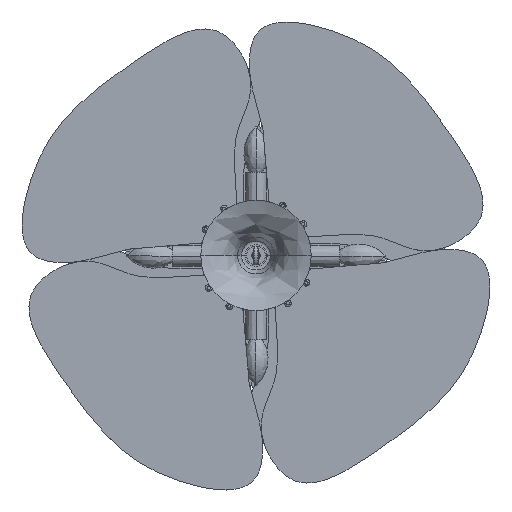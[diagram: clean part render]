
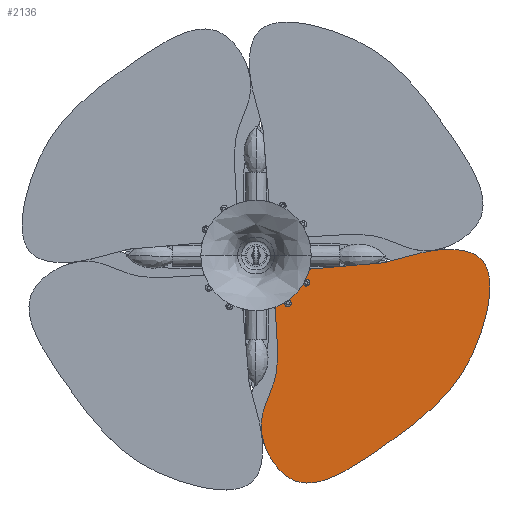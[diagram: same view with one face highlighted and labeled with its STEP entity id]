
A CAD part, top view. The second image highlights one B-rep face of the part: STEP entity #2136.
In plain terms, the highlighted planar face has unit normal (0, 0, 1).
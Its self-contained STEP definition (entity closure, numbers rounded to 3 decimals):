
#109=FACE_BOUND('',#5097,.T.);
#110=FACE_BOUND('',#5098,.T.);
#516=PLANE('',#24002);
#2136=ADVANCED_FACE('',(#3569,#109,#110),#516,.T.);
#3569=FACE_OUTER_BOUND('',#5096,.T.);
#5096=EDGE_LOOP('',(#10852,#10853,#10854));
#5097=EDGE_LOOP('',(#10855,#10856));
#5098=EDGE_LOOP('',(#10857,#10858));
#10852=ORIENTED_EDGE('',*,*,#13901,.F.);
#10853=ORIENTED_EDGE('',*,*,#13898,.F.);
#10854=ORIENTED_EDGE('',*,*,#13894,.F.);
#10855=ORIENTED_EDGE('',*,*,#13910,.F.);
#10856=ORIENTED_EDGE('',*,*,#13903,.F.);
#10857=ORIENTED_EDGE('',*,*,#13913,.F.);
#10858=ORIENTED_EDGE('',*,*,#13906,.F.);
#13894=EDGE_CURVE('',#20424,#20425,#18618,.T.);
#13898=EDGE_CURVE('',#20425,#20428,#16414,.T.);
#13901=EDGE_CURVE('',#20428,#20424,#18623,.T.);
#13903=EDGE_CURVE('',#20430,#20434,#16416,.T.);
#13906=EDGE_CURVE('',#20432,#20436,#16418,.T.);
#13910=EDGE_CURVE('',#20434,#20430,#16420,.T.);
#13913=EDGE_CURVE('',#20436,#20432,#16422,.T.);
#16414=TRIMMED_CURVE($,#18087,(#51695),(#51696),.T.,.CARTESIAN.);
#16416=TRIMMED_CURVE($,#18089,(#51711),(#51712),.T.,.CARTESIAN.);
#16418=TRIMMED_CURVE($,#18091,(#51719),(#51720),.T.,.CARTESIAN.);
#16420=TRIMMED_CURVE($,#18093,(#51729),(#51730),.T.,.CARTESIAN.);
#16422=TRIMMED_CURVE($,#18095,(#51737),(#51738),.T.,.CARTESIAN.);
#18087=CIRCLE('',#24006,3.);
#18089=CIRCLE('',#24008,4.);
#18091=CIRCLE('',#24010,4.);
#18093=CIRCLE('',#24012,4.);
#18095=CIRCLE('',#24014,4.);
#18618=(
BOUNDED_CURVE()
B_SPLINE_CURVE(3,(#51598,#51599,#51600,#51601,#51602,#51603,#51604,#51605,
#51606,#51607,#51608,#51609,#51610,#51611,#51612,#51613,#51614,#51615,#51616,
#51617,#51618,#51619,#51620,#51621,#51622,#51623,#51624,#51625,#51626,#51627,
#51628,#51629,#51630,#51631,#51632,#51633,#51634,#51635,#51636,#51637,#51638,
#51639,#51640,#51641,#51642,#51643),.UNSPECIFIED.,.F.,.F.)
B_SPLINE_CURVE_WITH_KNOTS((4,3,3,3,3,3,3,3,3,3,3,3,3,3,3,4),(23.487,
25.866,43.657,119.835,181.592,239.665,
310.364,410.589,521.691,646.594,781.694,
824.895,894.674,958.213,1031.187,1089.028),
 .UNSPECIFIED.)
CURVE()
GEOMETRIC_REPRESENTATION_ITEM()
RATIONAL_B_SPLINE_CURVE((1.,0.948,0.948,1.,1.,1.,
1.,1.,1.,1.,1.,1.,1.,1.,1.,1.,1.,1.,1.,1.,1.,1.,1.,1.,1.,1.,1.,1.,1.,1.,
1.,1.,1.,1.,1.,1.,1.,1.,1.,1.,1.,1.,1.,1.,1.,1.))
REPRESENTATION_ITEM('')
);
#18623=(
BOUNDED_CURVE()
B_SPLINE_CURVE(3,(#51702,#51703,#51704,#51705),.UNSPECIFIED.,.F.,.F.)
B_SPLINE_CURVE_WITH_KNOTS((4,4),(1091.415,1112.516),
 .UNSPECIFIED.)
CURVE()
GEOMETRIC_REPRESENTATION_ITEM()
RATIONAL_B_SPLINE_CURVE((1.,1.,1.,1.))
REPRESENTATION_ITEM('')
);
#20424=VERTEX_POINT('',#51584);
#20425=VERTEX_POINT('',#51585);
#20428=VERTEX_POINT('',#51588);
#20430=VERTEX_POINT('',#51590);
#20432=VERTEX_POINT('',#51592);
#20434=VERTEX_POINT('',#51594);
#20436=VERTEX_POINT('',#51596);
#24002=AXIS2_PLACEMENT_3D('',#51580,#27981,$);
#24006=AXIS2_PLACEMENT_3D($,#51694,#27985,#27986);
#24008=AXIS2_PLACEMENT_3D($,#51710,#27989,#27990);
#24010=AXIS2_PLACEMENT_3D($,#51718,#27993,#27994);
#24012=AXIS2_PLACEMENT_3D($,#51728,#27997,#27998);
#24014=AXIS2_PLACEMENT_3D($,#51736,#28001,#28002);
#27981=DIRECTION('',(0.,0.,1.));
#27985=DIRECTION('',(0.,0.,-1.));
#27986=DIRECTION('',(-0.998,-0.063,0.));
#27989=DIRECTION('',(0.,0.,1.));
#27990=DIRECTION('',(0.743,-0.669,0.));
#27993=DIRECTION('',(0.,0.,1.));
#27994=DIRECTION('',(0.743,-0.669,0.));
#27997=DIRECTION('',(0.,0.,1.));
#27998=DIRECTION('',(-0.743,0.669,0.));
#28001=DIRECTION('',(0.,0.,1.));
#28002=DIRECTION('',(-0.743,0.669,0.));
#51580=CARTESIAN_POINT('',(12907.915,3932.778,228.109));
#51584=CARTESIAN_POINT('',(12763.099,3717.132,228.109));
#51585=CARTESIAN_POINT('',(12748.216,3699.257,228.109));
#51588=CARTESIAN_POINT('',(12748.98,3701.452,228.109));
#51590=CARTESIAN_POINT('',(12771.64,3668.333,228.109));
#51592=CARTESIAN_POINT('',(12798.405,3698.059,228.109));
#51594=CARTESIAN_POINT('',(12765.695,3673.686,228.109));
#51596=CARTESIAN_POINT('',(12792.46,3703.412,228.109));
#51598=CARTESIAN_POINT('',(12763.099,3717.132,228.109));
#51599=CARTESIAN_POINT('',(12763.644,3717.738,228.109));
#51600=CARTESIAN_POINT('',(12764.38,3718.085,228.109));
#51601=CARTESIAN_POINT('',(12765.194,3718.122,228.109));
#51602=CARTESIAN_POINT('',(12771.322,3718.398,228.109));
#51603=CARTESIAN_POINT('',(12777.464,3718.673,228.109));
#51604=CARTESIAN_POINT('',(12783.571,3718.939,228.109));
#51605=CARTESIAN_POINT('',(12809.722,3720.079,228.109));
#51606=CARTESIAN_POINT('',(12835.252,3721.063,228.109));
#51607=CARTESIAN_POINT('',(12862.107,3723.615,228.109));
#51608=CARTESIAN_POINT('',(12883.879,3725.683,228.109));
#51609=CARTESIAN_POINT('',(12906.521,3728.782,228.109));
#51610=CARTESIAN_POINT('',(12925.991,3733.679,228.109));
#51611=CARTESIAN_POINT('',(12944.3,3738.284,228.109));
#51612=CARTESIAN_POINT('',(12959.803,3744.479,228.109));
#51613=CARTESIAN_POINT('',(12979.109,3747.478,228.109));
#51614=CARTESIAN_POINT('',(13002.611,3751.128,228.109));
#51615=CARTESIAN_POINT('',(13031.75,3750.041,228.109));
#51616=CARTESIAN_POINT('',(13047.014,3736.454,228.109));
#51617=CARTESIAN_POINT('',(13068.653,3717.193,228.109));
#51618=CARTESIAN_POINT('',(13062.41,3672.812,228.109));
#51619=CARTESIAN_POINT('',(13051.28,3636.32,228.109));
#51620=CARTESIAN_POINT('',(13038.943,3595.868,228.109));
#51621=CARTESIAN_POINT('',(13020.6,3565.109,228.109));
#51622=CARTESIAN_POINT('',(12997.566,3539.066,228.109));
#51623=CARTESIAN_POINT('',(12971.67,3509.787,228.109));
#51624=CARTESIAN_POINT('',(12939.844,3486.468,228.109));
#51625=CARTESIAN_POINT('',(12901.301,3459.479,228.109));
#51626=CARTESIAN_POINT('',(12859.612,3430.288,228.109));
#51627=CARTESIAN_POINT('',(12810.066,3396.804,228.109));
#51628=CARTESIAN_POINT('',(12773.192,3416.585,228.109));
#51629=CARTESIAN_POINT('',(12761.4,3422.91,228.109));
#51630=CARTESIAN_POINT('',(12750.905,3434.682,228.109));
#51631=CARTESIAN_POINT('',(12743.487,3447.247,228.109));
#51632=CARTESIAN_POINT('',(12731.506,3467.544,228.109));
#51633=CARTESIAN_POINT('',(12727.553,3489.911,228.109));
#51634=CARTESIAN_POINT('',(12731.863,3509.95,228.109));
#51635=CARTESIAN_POINT('',(12735.787,3528.197,228.109));
#51636=CARTESIAN_POINT('',(12746.562,3544.512,228.109));
#51637=CARTESIAN_POINT('',(12751.103,3565.578,228.109));
#51638=CARTESIAN_POINT('',(12756.317,3589.772,228.109));
#51639=CARTESIAN_POINT('',(12753.308,3620.231,228.109));
#51640=CARTESIAN_POINT('',(12751.355,3647.268,228.109));
#51641=CARTESIAN_POINT('',(12749.807,3668.698,228.109));
#51642=CARTESIAN_POINT('',(12748.923,3687.978,228.109));
#51643=CARTESIAN_POINT('',(12748.216,3699.257,228.109));
#51694=CARTESIAN_POINT('',(12751.21,3699.444,228.109));
#51695=CARTESIAN_POINT('',(12748.216,3699.257,228.109));
#51696=CARTESIAN_POINT('',(12748.98,3701.452,228.109));
#51702=CARTESIAN_POINT('',(12748.98,3701.452,228.109));
#51703=CARTESIAN_POINT('',(12753.687,3706.679,228.109));
#51704=CARTESIAN_POINT('',(12758.393,3711.906,228.109));
#51705=CARTESIAN_POINT('',(12763.099,3717.132,228.109));
#51710=CARTESIAN_POINT('',(12768.667,3671.01,228.109));
#51711=CARTESIAN_POINT('',(12771.64,3668.333,228.109));
#51712=CARTESIAN_POINT('',(12765.695,3673.686,228.109));
#51718=CARTESIAN_POINT('',(12795.432,3700.736,228.109));
#51719=CARTESIAN_POINT('',(12798.405,3698.059,228.109));
#51720=CARTESIAN_POINT('',(12792.46,3703.412,228.109));
#51728=CARTESIAN_POINT('',(12768.667,3671.01,228.109));
#51729=CARTESIAN_POINT('',(12765.695,3673.686,228.109));
#51730=CARTESIAN_POINT('',(12771.64,3668.333,228.109));
#51736=CARTESIAN_POINT('',(12795.432,3700.736,228.109));
#51737=CARTESIAN_POINT('',(12792.46,3703.412,228.109));
#51738=CARTESIAN_POINT('',(12798.405,3698.059,228.109));
